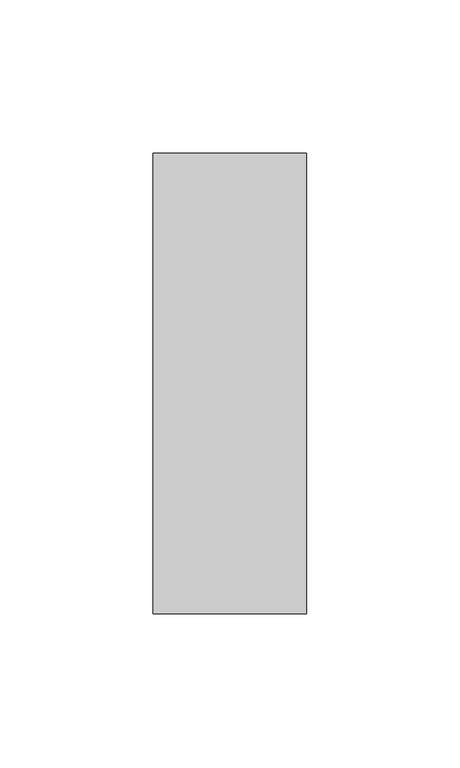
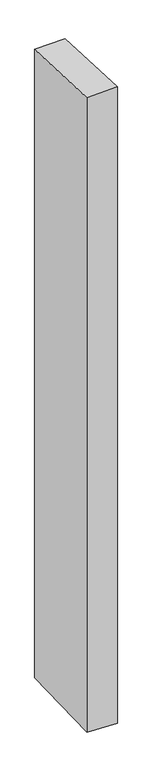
"""IFC4 building model written with IfcOpenShell, lengths in millimetres: member geometry, Прямоугольный импост : 50 x 150 мм."""

from ifc_helpers import new_model, si_unit, origin, place, context, project, spatial, faceted_brep, source, transform, mapped, element, save


def member_d73842fa(model_context):
    return source(origin(), model_context, "Body", "Brep", [
        faceted_brep([(-25.0, 75.0, -3.9364251), (25.0, 75.0, -2.6170245), (25.0, 75.0, -1104.2712656), (-25.0, 75.0, -1102.7846463), (-25.0, -75.0, 2.6170245), (-25.0, -75.0, -1106.8436481), (25.0, -75.0, 3.9364251), (25.0, -75.0, -1108.3302673)], [[[0, 1, 2, 3]], [[4, 0, 3, 5]], [[6, 4, 5, 7]], [[1, 6, 7, 2]], [[1, 0, 4, 6]], [[2, 7, 5, 3]]]),
    ])


if __name__ == "__main__":
    model = new_model("IFC4")
    model_context = context("Model", 3, world=origin())
    ifc_project = project(units=[si_unit("LENGTHUNIT", "METRE", prefix="MILLI")], contexts=[model_context])
    site = spatial("IfcSite", under=ifc_project)
    building = spatial("IfcBuilding", under=site)
    placement = place(None, origin())
    member_shape = member_d73842fa(model_context)
    element("IfcMember", 1, ObjectType="Прямоугольный импост : 50 x 150 мм", at=placement, inside=building, context=model_context, shape_type="MappedRepresentation", body=[
        mapped(member_shape, transform((0.0, 0.0, 0.0), x_axis=(1.0, 0.0, 0.0), y_axis=(0.0, 1.0, 0.0), z_axis=(0.0, 0.0, 1.0))),
    ])
    save(model, "model.ifc")
